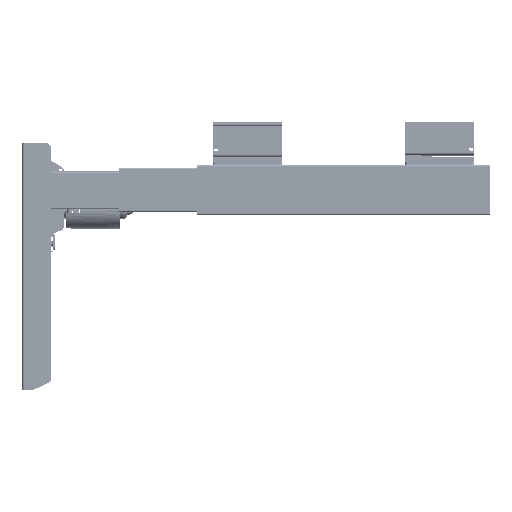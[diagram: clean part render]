
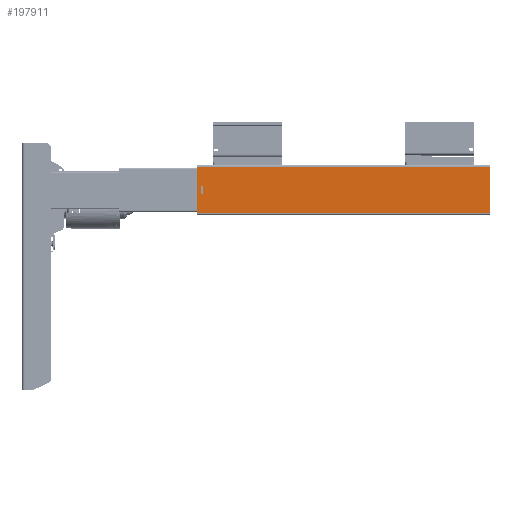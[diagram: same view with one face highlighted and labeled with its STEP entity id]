
A CAD part, left-side view. The second image highlights one B-rep face of the part: STEP entity #197911.
In plain terms, the highlighted planar face has unit normal (-1, 0, 0).
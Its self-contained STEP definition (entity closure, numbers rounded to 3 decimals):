
#2073 = VECTOR ( 'NONE', #23375, 1000. ) ;
#6129 = DIRECTION ( 'NONE',  ( 0., -1., 0. ) ) ;
#17021 = DIRECTION ( 'NONE',  ( 0., -1., 0. ) ) ;
#23182 = VECTOR ( 'NONE', #199610, 1000. ) ;
#23375 = DIRECTION ( 'NONE',  ( 0., 0., -1. ) ) ;
#25664 = ORIENTED_EDGE ( 'NONE', *, *, #74489, .T. ) ;
#29279 = CARTESIAN_POINT ( 'NONE',  ( -30., 6., 10. ) ) ;
#33704 = LINE ( 'NONE', #231289, #133260 ) ;
#39105 = CARTESIAN_POINT ( 'NONE',  ( -30., -37., 0. ) ) ;
#41714 = LINE ( 'NONE', #107709, #105261 ) ;
#42127 = VECTOR ( 'NONE', #220166, 1000. ) ;
#43241 = EDGE_CURVE ( 'NONE', #53454, #192175, #49104, .T. ) ;
#43281 = VERTEX_POINT ( 'NONE', #50677 ) ;
#43602 = VECTOR ( 'NONE', #315997, 1000. ) ;
#47169 = FACE_OUTER_BOUND ( 'NONE', #134981, .T. ) ;
#49104 = LINE ( 'NONE', #116665, #186605 ) ;
#49831 = CARTESIAN_POINT ( 'NONE',  ( -30., -6., 6. ) ) ;
#50677 = CARTESIAN_POINT ( 'NONE',  ( -30., 37., 0. ) ) ;
#53454 = VERTEX_POINT ( 'NONE', #81691 ) ;
#62156 = VECTOR ( 'NONE', #6129, 1000. ) ;
#74489 = EDGE_CURVE ( 'NONE', #192175, #279756, #41714, .T. ) ;
#75884 = AXIS2_PLACEMENT_3D ( 'NONE', #119496, #270418, #220711 ) ;
#80370 = ORIENTED_EDGE ( 'NONE', *, *, #164850, .T. ) ;
#81691 = CARTESIAN_POINT ( 'NONE',  ( -30., 6., 10. ) ) ;
#96052 = ORIENTED_EDGE ( 'NONE', *, *, #315482, .F. ) ;
#105261 = VECTOR ( 'NONE', #303651, 1000. ) ;
#107709 = CARTESIAN_POINT ( 'NONE',  ( -30., -6., 10. ) ) ;
#108610 = EDGE_LOOP ( 'NONE', ( #80370, #233579, #25664, #190932 ) ) ;
#111869 = VERTEX_POINT ( 'NONE', #258168 ) ;
#116665 = CARTESIAN_POINT ( 'NONE',  ( -30., 6., 10. ) ) ;
#119496 = CARTESIAN_POINT ( 'NONE',  ( -30., 37., 465. ) ) ;
#122664 = FACE_BOUND ( 'NONE', #108610, .T. ) ;
#132072 = LINE ( 'NONE', #29279, #23182 ) ;
#133260 = VECTOR ( 'NONE', #308275, 1000. ) ;
#134981 = EDGE_LOOP ( 'NONE', ( #286827, #184533, #96052, #271405 ) ) ;
#141504 = LINE ( 'NONE', #293963, #42127 ) ;
#142219 = VERTEX_POINT ( 'NONE', #39105 ) ;
#164850 = EDGE_CURVE ( 'NONE', #301369, #53454, #132072, .T. ) ;
#168278 = CARTESIAN_POINT ( 'NONE',  ( -30., 37., 465. ) ) ;
#171452 = LINE ( 'NONE', #168278, #43602 ) ;
#172689 = EDGE_CURVE ( 'NONE', #111869, #142219, #33704, .T. ) ;
#184533 = ORIENTED_EDGE ( 'NONE', *, *, #172689, .F. ) ;
#186451 = EDGE_CURVE ( 'NONE', #282857, #43281, #219442, .T. ) ;
#186605 = VECTOR ( 'NONE', #17021, 1000. ) ;
#190932 = ORIENTED_EDGE ( 'NONE', *, *, #273670, .T. ) ;
#192175 = VERTEX_POINT ( 'NONE', #213886 ) ;
#197911 = ADVANCED_FACE ( 'NONE', ( #122664, #47169 ), #241648, .F. ) ;
#199610 = DIRECTION ( 'NONE',  ( 0., 0., 1. ) ) ;
#213886 = CARTESIAN_POINT ( 'NONE',  ( -30., -6., 10. ) ) ;
#219442 = LINE ( 'NONE', #296401, #2073 ) ;
#220166 = DIRECTION ( 'NONE',  ( 0., 1., 0. ) ) ;
#220711 = DIRECTION ( 'NONE',  ( 0., 1., 0. ) ) ;
#222475 = CARTESIAN_POINT ( 'NONE',  ( -30., 37., 465. ) ) ;
#226269 = LINE ( 'NONE', #279164, #62156 ) ;
#231289 = CARTESIAN_POINT ( 'NONE',  ( -30., -37., 465. ) ) ;
#233579 = ORIENTED_EDGE ( 'NONE', *, *, #43241, .T. ) ;
#241648 = PLANE ( 'NONE',  #75884 ) ;
#258128 = EDGE_CURVE ( 'NONE', #43281, #142219, #226269, .T. ) ;
#258168 = CARTESIAN_POINT ( 'NONE',  ( -30., -37., 465. ) ) ;
#270418 = DIRECTION ( 'NONE',  ( 1., 0., 0. ) ) ;
#271405 = ORIENTED_EDGE ( 'NONE', *, *, #186451, .T. ) ;
#273670 = EDGE_CURVE ( 'NONE', #279756, #301369, #141504, .T. ) ;
#279164 = CARTESIAN_POINT ( 'NONE',  ( -30., 37., 0. ) ) ;
#279756 = VERTEX_POINT ( 'NONE', #49831 ) ;
#282857 = VERTEX_POINT ( 'NONE', #222475 ) ;
#286827 = ORIENTED_EDGE ( 'NONE', *, *, #258128, .T. ) ;
#293963 = CARTESIAN_POINT ( 'NONE',  ( -30., 6., 6. ) ) ;
#296401 = CARTESIAN_POINT ( 'NONE',  ( -30., 37., 465. ) ) ;
#301369 = VERTEX_POINT ( 'NONE', #303150 ) ;
#303150 = CARTESIAN_POINT ( 'NONE',  ( -30., 6., 6. ) ) ;
#303651 = DIRECTION ( 'NONE',  ( 0., 0., -1. ) ) ;
#308275 = DIRECTION ( 'NONE',  ( 0., 0., -1. ) ) ;
#315482 = EDGE_CURVE ( 'NONE', #282857, #111869, #171452, .T. ) ;
#315997 = DIRECTION ( 'NONE',  ( 0., -1., 0. ) ) ;
